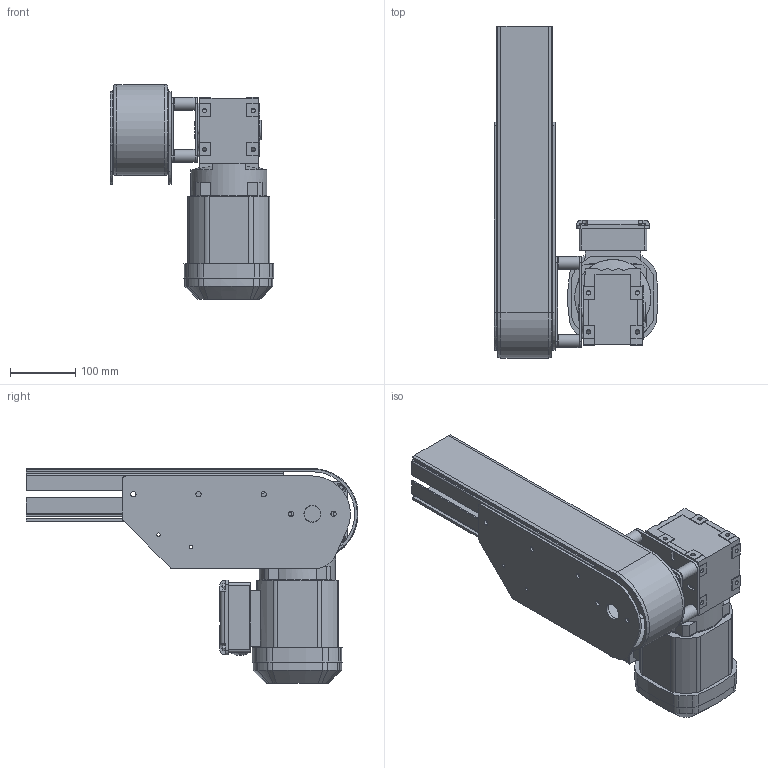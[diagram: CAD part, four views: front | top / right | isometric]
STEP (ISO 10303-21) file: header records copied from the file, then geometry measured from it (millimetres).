
FILE_DESCRIPTION((''),'2;1');
FILE_NAME('C:\Vault Klient\Projekt\Koncept konstruktion\Serie 530 Drivenhet\530-3310V.stp','2010-12-09T07:46:16',('Mathias'),(''),'Autodesk Inventor 2011','Autodesk Inventor 2011','');
FILE_SCHEMA(('AUTOMOTIVE_DESIGN { 1 0 10303 214 1 1 1 1 }'));
Length unit declared in the file: millimetre
Products named in the file (10): 530-3310V; Serie 530 Drivände; 530-1000; 830-2000; 530-3500H; 530-3500V; 500-3100; 500-3160; 500-3070; 900-4030
Assembly tree (12 placements, depth 3):
  530-3310V
    Serie 530 Drivände
      530-1000
      830-2000
      530-3500H
      530-3500V
    500-3100
    500-3160  x4
    500-3070
    900-4030
Bounding box: 251.64 x 509.96 x 330.3 mm (x, y, z)
Volume: 5534928.2 mm3; surface area: 880386.7 mm2
Topology: 14 solids, 17 shells, 688 faces, 1849 edges, 1220 vertices
Faces by surface type: plane 414, cylinder 228, cone 28, bspline 16, sphere 2
Full cylindrical faces by diameter (mm): 5 x4, 6 x9, 6.6 x8, 6.647 x4, 8 x6, 8.2 x4, 8.5 x4, 10 x4, 20 x5, 25 x1, 26 x3, 28 x1, 30 x2, 37 x1, 117 x1
Entity records: 21936 total; most frequent: CARTESIAN_POINT 4111, DIRECTION 3549, ORIENTED_EDGE 3468, EDGE_CURVE 1734, AXIS2_PLACEMENT_3D 1185, VERTEX_POINT 1183, VECTOR 1179, LINE 1179
